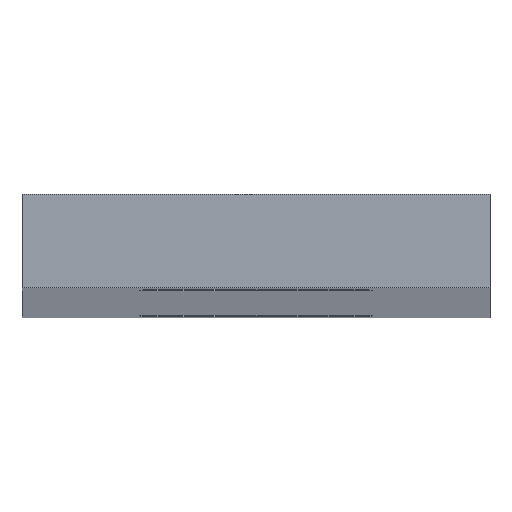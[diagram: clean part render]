
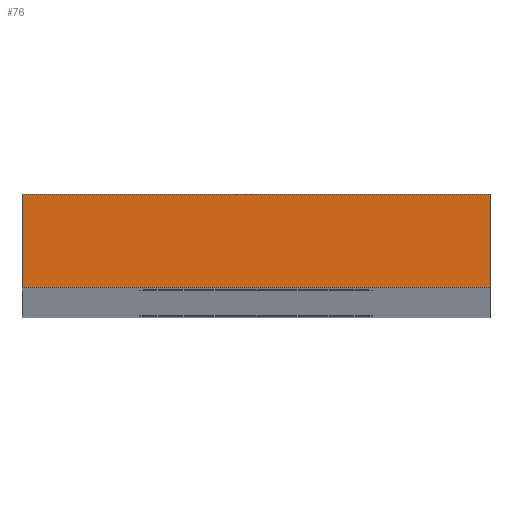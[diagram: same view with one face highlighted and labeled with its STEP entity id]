
A CAD part, top view. The second image highlights one B-rep face of the part: STEP entity #76.
In plain terms, the highlighted planar face has unit normal (0, 0, 1).
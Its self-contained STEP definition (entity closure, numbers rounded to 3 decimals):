
#76 = ADVANCED_FACE( '', ( #88 ), #89, .T. );
#88 = FACE_OUTER_BOUND( '', #120, .T. );
#89 = PLANE( '', #121 );
#120 = EDGE_LOOP( '', ( #157, #158, #159, #160 ) );
#121 = AXIS2_PLACEMENT_3D( '', #161, #162, #163 );
#157 = ORIENTED_EDGE( '', *, *, #222, .T. );
#158 = ORIENTED_EDGE( '', *, *, #224, .T. );
#159 = ORIENTED_EDGE( '', *, *, #225, .T. );
#160 = ORIENTED_EDGE( '', *, *, #226, .T. );
#161 = CARTESIAN_POINT( '', ( -7.937, -1.588, 288.925 ) );
#162 = DIRECTION( '', ( 0., 0., 1. ) );
#163 = DIRECTION( '', ( 1., 0., 0. ) );
#222 = EDGE_CURVE( '', #245, #243, #246, .T. );
#224 = EDGE_CURVE( '', #243, #248, #249, .T. );
#225 = EDGE_CURVE( '', #248, #250, #251, .T. );
#226 = EDGE_CURVE( '', #250, #245, #252, .T. );
#243 = VERTEX_POINT( '', #280 );
#245 = VERTEX_POINT( '', #283 );
#246 = LINE( '', #284, #285 );
#248 = VERTEX_POINT( '', #288 );
#249 = LINE( '', #289, #290 );
#250 = VERTEX_POINT( '', #291 );
#251 = LINE( '', #292, #293 );
#252 = LINE( '', #294, #295 );
#280 = CARTESIAN_POINT( '', ( -7.937, -1.588, 288.925 ) );
#283 = CARTESIAN_POINT( '', ( -7.937, 1.588, 288.925 ) );
#284 = CARTESIAN_POINT( '', ( -7.937, 1.588, 288.925 ) );
#285 = VECTOR( '', #326, 1000. );
#288 = CARTESIAN_POINT( '', ( 7.938, -1.588, 288.925 ) );
#289 = CARTESIAN_POINT( '', ( -7.937, -1.588, 288.925 ) );
#290 = VECTOR( '', #328, 1000. );
#291 = CARTESIAN_POINT( '', ( 7.938, 1.588, 288.925 ) );
#292 = CARTESIAN_POINT( '', ( 7.938, -1.588, 288.925 ) );
#293 = VECTOR( '', #329, 1000. );
#294 = CARTESIAN_POINT( '', ( 7.938, 1.588, 288.925 ) );
#295 = VECTOR( '', #330, 1000. );
#326 = DIRECTION( '', ( 0., -1., 0. ) );
#328 = DIRECTION( '', ( 1., 0., 0. ) );
#329 = DIRECTION( '', ( 0., 1., 0. ) );
#330 = DIRECTION( '', ( -1., 0., 0. ) );
